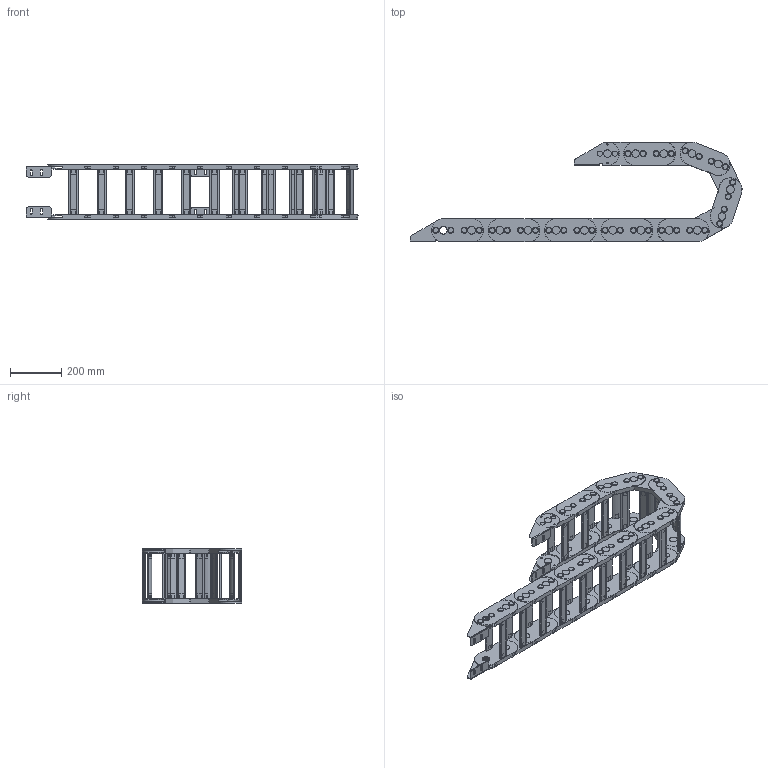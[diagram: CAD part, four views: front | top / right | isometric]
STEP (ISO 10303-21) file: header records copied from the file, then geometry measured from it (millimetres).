
FILE_DESCRIPTION((''),'2;1');
FILE_NAME('GD-65-R150_ASM','2022-07-07T09:27:12',('admin'),(''),'CREO PARAMETRIC BY PTC INC, 2021164','CREO PARAMETRIC BY PTC INC, 2021164','');
FILE_SCHEMA(('CONFIG_CONTROL_DESIGN','GEOMETRIC_VALIDATION_PROPERTIES_MIM'));
Length unit declared in the file: millimetre
Products named in the file (5): 65-R150; 65-R150-1; TLT-1; TLT-2; GD-65-R150_ASM
Assembly tree (18 placements, depth 2):
  GD-65-R150_ASM
    65-R150  x8
    65-R150-1  x8
    TLT-1
    TLT-2
Bounding box: 1293.94 x 388.57 x 215.4 mm (x, y, z)
Volume: 7796714.7 mm3; surface area: 2355457.7 mm2
Topology: 68 solids, 68 shells, 2092 faces, 5478 edges, 3722 vertices
Faces by surface type: cylinder 1004, plane 928, cone 160
Entity records: 16167 total; most frequent: DIRECTION 2482, CARTESIAN_POINT 2384, ORIENTED_EDGE 2220, EDGE_CURVE 1110, AXIS2_PLACEMENT_3D 949, VERTEX_POINT 754, PRESENTATION_STYLE_ASSIGNMENT 634, STYLED_ITEM 633
